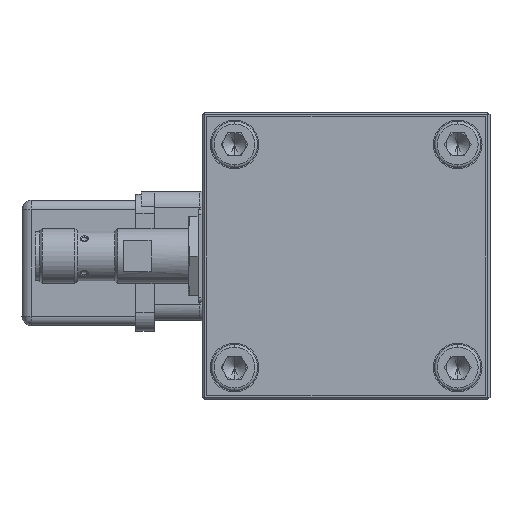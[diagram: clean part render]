
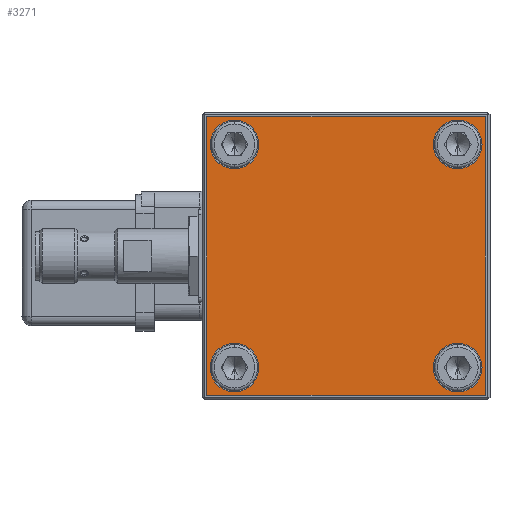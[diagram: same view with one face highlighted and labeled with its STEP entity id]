
A CAD part, left-side view. The second image highlights one B-rep face of the part: STEP entity #3271.
In plain terms, the highlighted planar face has unit normal (-1, 0, 0).
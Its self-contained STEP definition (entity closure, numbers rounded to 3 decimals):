
#125 = EDGE_LOOP ( 'NONE', ( #13222, #4305 ) ) ;
#220 = VERTEX_POINT ( 'NONE', #8199 ) ;
#459 = FACE_BOUND ( 'NONE', #125, .T. ) ;
#576 = CARTESIAN_POINT ( 'NONE',  ( -17.8, 30., 30. ) ) ;
#639 = LINE ( 'NONE', #7100, #1885 ) ;
#680 = FACE_OUTER_BOUND ( 'NONE', #17357, .T. ) ;
#981 = DIRECTION ( 'NONE',  ( -1., 0., 0. ) ) ;
#1058 = LINE ( 'NONE', #17455, #14057 ) ;
#1083 = VERTEX_POINT ( 'NONE', #8530 ) ;
#1118 = CARTESIAN_POINT ( 'NONE',  ( -17.8, -24.04, -29.29 ) ) ;
#1171 = DIRECTION ( 'NONE',  ( 0., -1., 0. ) ) ;
#1449 = EDGE_CURVE ( 'NONE', #14231, #3330, #16345, .T. ) ;
#1696 = EDGE_CURVE ( 'NONE', #9262, #8584, #12284, .T. ) ;
#1885 = VECTOR ( 'NONE', #18742, 1000. ) ;
#2847 = CARTESIAN_POINT ( 'NONE',  ( -17.8, 24.04, 24.04 ) ) ;
#2906 = CARTESIAN_POINT ( 'NONE',  ( -17.8, -24.04, -24.04 ) ) ;
#3144 = CARTESIAN_POINT ( 'NONE',  ( -17.8, 24.04, -24.04 ) ) ;
#3271 = ADVANCED_FACE ( 'NONE', ( #8526, #3678, #459, #13345, #680 ), #4004, .T. ) ;
#3330 = VERTEX_POINT ( 'NONE', #1118 ) ;
#3497 = EDGE_CURVE ( 'NONE', #12491, #220, #639, .T. ) ;
#3642 = VECTOR ( 'NONE', #13840, 1000. ) ;
#3678 = FACE_BOUND ( 'NONE', #19389, .T. ) ;
#4004 = PLANE ( 'NONE',  #19223 ) ;
#4040 = ORIENTED_EDGE ( 'NONE', *, *, #10336, .F. ) ;
#4087 = ORIENTED_EDGE ( 'NONE', *, *, #3497, .F. ) ;
#4263 = VERTEX_POINT ( 'NONE', #18968 ) ;
#4300 = DIRECTION ( 'NONE',  ( -1., 0., 0. ) ) ;
#4305 = ORIENTED_EDGE ( 'NONE', *, *, #16920, .F. ) ;
#4389 = LINE ( 'NONE', #17375, #3642 ) ;
#4662 = DIRECTION ( 'NONE',  ( 0., 0., 1. ) ) ;
#4724 = DIRECTION ( 'NONE',  ( 0., 0., 1. ) ) ;
#4765 = CARTESIAN_POINT ( 'NONE',  ( -17.8, 24.04, 18.79 ) ) ;
#4909 = EDGE_LOOP ( 'NONE', ( #6105, #19134 ) ) ;
#5248 = EDGE_CURVE ( 'NONE', #20253, #12491, #1058, .T. ) ;
#5292 = AXIS2_PLACEMENT_3D ( 'NONE', #20443, #4300, #14043 ) ;
#5697 = CIRCLE ( 'NONE', #16925, 5.25 ) ;
#5737 = CARTESIAN_POINT ( 'NONE',  ( -17.8, -24.04, -24.04 ) ) ;
#5876 = CIRCLE ( 'NONE', #19787, 5.25 ) ;
#5967 = DIRECTION ( 'NONE',  ( 0., 0., 1. ) ) ;
#6105 = ORIENTED_EDGE ( 'NONE', *, *, #1449, .F. ) ;
#6142 = CARTESIAN_POINT ( 'NONE',  ( -17.8, 30., 30. ) ) ;
#6795 = VERTEX_POINT ( 'NONE', #13291 ) ;
#6906 = EDGE_CURVE ( 'NONE', #3330, #14231, #5697, .T. ) ;
#7100 = CARTESIAN_POINT ( 'NONE',  ( -17.8, -30., 30. ) ) ;
#7329 = EDGE_CURVE ( 'NONE', #1083, #11789, #13858, .T. ) ;
#7496 = AXIS2_PLACEMENT_3D ( 'NONE', #2906, #10970, #12567 ) ;
#7737 = ORIENTED_EDGE ( 'NONE', *, *, #16210, .F. ) ;
#7860 = VERTEX_POINT ( 'NONE', #12552 ) ;
#7922 = DIRECTION ( 'NONE',  ( 0., 0., 1. ) ) ;
#8129 = DIRECTION ( 'NONE',  ( 0., 1., 0. ) ) ;
#8199 = CARTESIAN_POINT ( 'NONE',  ( -17.8, -30., -30. ) ) ;
#8526 = FACE_BOUND ( 'NONE', #19981, .T. ) ;
#8530 = CARTESIAN_POINT ( 'NONE',  ( -17.8, -24.04, 29.29 ) ) ;
#8584 = VERTEX_POINT ( 'NONE', #4765 ) ;
#8750 = DIRECTION ( 'NONE',  ( -1., 0., 0. ) ) ;
#9262 = VERTEX_POINT ( 'NONE', #14193 ) ;
#10336 = EDGE_CURVE ( 'NONE', #8584, #9262, #5876, .T. ) ;
#10494 = DIRECTION ( 'NONE',  ( -1., 0., 0. ) ) ;
#10812 = DIRECTION ( 'NONE',  ( 0., 0., 1. ) ) ;
#10949 = CIRCLE ( 'NONE', #12653, 5.25 ) ;
#10970 = DIRECTION ( 'NONE',  ( -1., 0., 0. ) ) ;
#11533 = CARTESIAN_POINT ( 'NONE',  ( -17.8, 24.04, 24.04 ) ) ;
#11592 = CARTESIAN_POINT ( 'NONE',  ( -17.8, -24.04, -18.79 ) ) ;
#11789 = VERTEX_POINT ( 'NONE', #12359 ) ;
#12222 = DIRECTION ( 'NONE',  ( 0., 0., 1. ) ) ;
#12284 = CIRCLE ( 'NONE', #12305, 5.25 ) ;
#12305 = AXIS2_PLACEMENT_3D ( 'NONE', #11533, #13256, #4662 ) ;
#12359 = CARTESIAN_POINT ( 'NONE',  ( -17.8, -24.04, 18.79 ) ) ;
#12491 = VERTEX_POINT ( 'NONE', #13111 ) ;
#12552 = CARTESIAN_POINT ( 'NONE',  ( -17.8, 24.04, -29.29 ) ) ;
#12567 = DIRECTION ( 'NONE',  ( 0., 0., 1. ) ) ;
#12653 = AXIS2_PLACEMENT_3D ( 'NONE', #3144, #16225, #4724 ) ;
#12665 = EDGE_CURVE ( 'NONE', #4263, #20253, #4389, .T. ) ;
#12721 = CIRCLE ( 'NONE', #16453, 5.25 ) ;
#12725 = DIRECTION ( 'NONE',  ( -1., 0., 0. ) ) ;
#12776 = CIRCLE ( 'NONE', #5292, 5.25 ) ;
#12930 = CARTESIAN_POINT ( 'NONE',  ( -17.8, -30., -30. ) ) ;
#13102 = EDGE_CURVE ( 'NONE', #220, #4263, #20707, .T. ) ;
#13111 = CARTESIAN_POINT ( 'NONE',  ( -17.8, -30., 30. ) ) ;
#13222 = ORIENTED_EDGE ( 'NONE', *, *, #7329, .F. ) ;
#13234 = ORIENTED_EDGE ( 'NONE', *, *, #20846, .F. ) ;
#13256 = DIRECTION ( 'NONE',  ( -1., 0., 0. ) ) ;
#13291 = CARTESIAN_POINT ( 'NONE',  ( -17.8, 24.04, -18.79 ) ) ;
#13345 = FACE_BOUND ( 'NONE', #4909, .T. ) ;
#13814 = AXIS2_PLACEMENT_3D ( 'NONE', #16038, #12725, #7922 ) ;
#13840 = DIRECTION ( 'NONE',  ( 0., 0., 1. ) ) ;
#13858 = CIRCLE ( 'NONE', #13814, 5.25 ) ;
#14037 = CARTESIAN_POINT ( 'NONE',  ( -17.8, 24.04, -24.04 ) ) ;
#14043 = DIRECTION ( 'NONE',  ( 0., 0., 1. ) ) ;
#14057 = VECTOR ( 'NONE', #1171, 1000. ) ;
#14193 = CARTESIAN_POINT ( 'NONE',  ( -17.8, 24.04, 29.29 ) ) ;
#14231 = VERTEX_POINT ( 'NONE', #11592 ) ;
#14538 = VECTOR ( 'NONE', #8129, 1000. ) ;
#16038 = CARTESIAN_POINT ( 'NONE',  ( -17.8, -24.04, 24.04 ) ) ;
#16092 = ORIENTED_EDGE ( 'NONE', *, *, #12665, .F. ) ;
#16210 = EDGE_CURVE ( 'NONE', #6795, #7860, #12721, .T. ) ;
#16225 = DIRECTION ( 'NONE',  ( -1., 0., 0. ) ) ;
#16345 = CIRCLE ( 'NONE', #7496, 5.25 ) ;
#16453 = AXIS2_PLACEMENT_3D ( 'NONE', #14037, #981, #5967 ) ;
#16552 = DIRECTION ( 'NONE',  ( 0., 0., 1. ) ) ;
#16920 = EDGE_CURVE ( 'NONE', #11789, #1083, #12776, .T. ) ;
#16925 = AXIS2_PLACEMENT_3D ( 'NONE', #5737, #10494, #12222 ) ;
#17357 = EDGE_LOOP ( 'NONE', ( #20644, #16092, #19460, #4087 ) ) ;
#17375 = CARTESIAN_POINT ( 'NONE',  ( -17.8, 30., 30. ) ) ;
#17455 = CARTESIAN_POINT ( 'NONE',  ( -17.8, -30., 30. ) ) ;
#18742 = DIRECTION ( 'NONE',  ( 0., 0., -1. ) ) ;
#18928 = DIRECTION ( 'NONE',  ( -1., 0., 0. ) ) ;
#18968 = CARTESIAN_POINT ( 'NONE',  ( -17.8, 30., -30. ) ) ;
#19134 = ORIENTED_EDGE ( 'NONE', *, *, #6906, .F. ) ;
#19223 = AXIS2_PLACEMENT_3D ( 'NONE', #576, #8750, #16552 ) ;
#19389 = EDGE_LOOP ( 'NONE', ( #20574, #4040 ) ) ;
#19460 = ORIENTED_EDGE ( 'NONE', *, *, #13102, .F. ) ;
#19787 = AXIS2_PLACEMENT_3D ( 'NONE', #2847, #18928, #10812 ) ;
#19981 = EDGE_LOOP ( 'NONE', ( #7737, #13234 ) ) ;
#20253 = VERTEX_POINT ( 'NONE', #6142 ) ;
#20443 = CARTESIAN_POINT ( 'NONE',  ( -17.8, -24.04, 24.04 ) ) ;
#20574 = ORIENTED_EDGE ( 'NONE', *, *, #1696, .F. ) ;
#20644 = ORIENTED_EDGE ( 'NONE', *, *, #5248, .F. ) ;
#20707 = LINE ( 'NONE', #12930, #14538 ) ;
#20846 = EDGE_CURVE ( 'NONE', #7860, #6795, #10949, .T. ) ;
